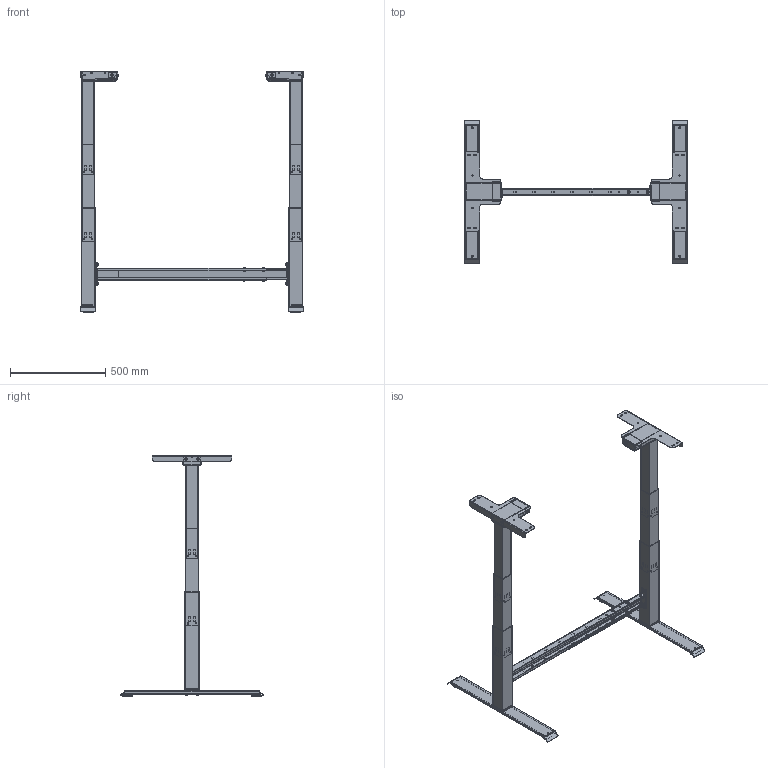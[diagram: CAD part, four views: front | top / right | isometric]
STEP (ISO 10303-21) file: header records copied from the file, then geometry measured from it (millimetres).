
FILE_DESCRIPTION(/* description */ ('Unknown'),/* implementation_level */ '2;1');
FILE_NAME(/* name */ 'Untergestell EA 2665 A XX XX_00-Ausgefahren',/* time_stamp */ '2026-05-06T08:21:50+02:00',/* author */ ('Unknown'),/* organization */ ('Unknown'),/* preprocessor_version */ 'ST-DEVELOPER v20',/* originating_system */ 'Solid Edge',/* authorisation */ 'Unknown');
FILE_SCHEMA (('AUTOMOTIVE_DESIGN {1 0 10303 214 3 1 1}'));
Length unit declared in the file: millimetre
Products named in the file (22): Untergestell EA 2655 A XX XX; 127.00821; EA2 Tischfuss unten; EA2 Tischfuss oben; Regulierfuss; 801.00036; EA Aussenprofil; EA Mittelprofil; EA Innenprofil; EA Motorengehäuse; EA Deckel; EA Molex; 127.00842; E1 Traverse aussen; E1 Traverse innen; Halbrundkopfschraube M6x16; Scheibe ﾘ6,4; Sechskantmutter M6; Halbrundkopfschraube M8x10; 127.00801; Senkschraube M6x12 S; Halbrundkopfschraube M6x32 S
Assembly tree (51 placements, depth 3):
  Untergestell EA 2655 A XX XX
    127.00821  x2
      EA2 Tischfuss unten
      EA2 Tischfuss oben
      Regulierfuss
    801.00036  x2
      EA Aussenprofil
      EA Mittelprofil
      EA Innenprofil
      EA Motorengehäuse
      EA Deckel
      EA Molex
    127.00842
      E1 Traverse aussen
      E1 Traverse innen
      Halbrundkopfschraube M6x16  x4
      Scheibe ﾘ6,4  x4
      Sechskantmutter M6  x4
      Halbrundkopfschraube M8x10  x4
    127.00801  x2
    Senkschraube M6x12 S  x8
    Halbrundkopfschraube M6x32 S  x8
Bounding box: 1171 x 749.98 x 1269.5 mm (x, y, z)
Volume: 3747174.8 mm3; surface area: 3369917.3 mm2
Topology: 60 solids, 60 shells, 3369 faces, 9089 edges, 5920 vertices
Faces by surface type: plane 1602, cylinder 1087, cone 308, torus 240, bspline 112, sphere 20
Full cylindrical faces by diameter (mm): 4.2 x4, 4.5 x8, 5 x28, 5.6 x16, 5.7 x16, 5.75 x4, 6 x26, 6.4 x4, 6.8 x4, 7.2 x12, 8 x4, 12 x12, 13.6 x4, 14 x4
Entity records: 52808 total; most frequent: CARTESIAN_POINT 13346, ORIENTED_EDGE 8360, DIRECTION 7569, EDGE_CURVE 4180, VERTEX_POINT 2775, AXIS2_PLACEMENT_3D 2617, LINE 2335, VECTOR 2335
